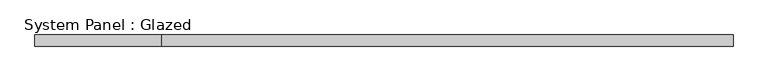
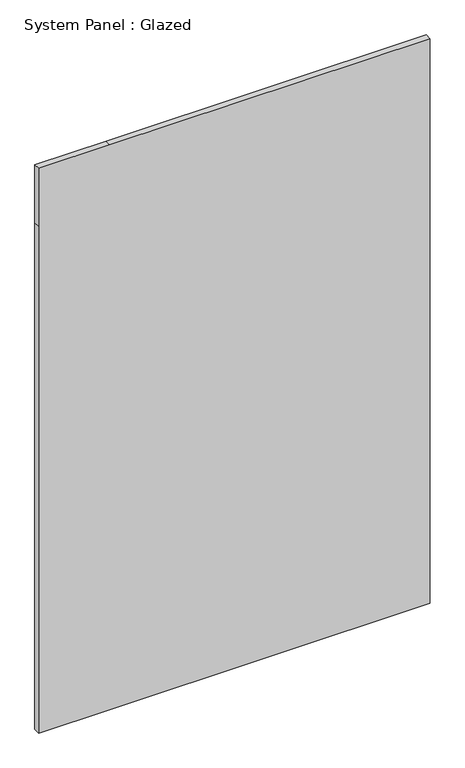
"""IFC4 building model written with IfcOpenShell, lengths in millimetres: plate geometry, System Panel : Glazed."""

import ifcopenshell
import ifcopenshell.guid

model = None  # the IFC model being written
_history = None  # IfcOwnerHistory: only IFC2X3 demands one
_inside = {}  # id of a spatial element -> (the spatial element, [elements in it])
_under = {}  # id of a project, library or spatial element -> (it, [spatial elements below it])
_declared = {}  # id of a project -> (the project, [libraries it declares])
_typed = {}  # id of a type object -> (the type object, [elements of that type])
_made_of = {}  # id of a material, layer set ... -> (it, [elements and type objects made of it])


def new_model(schema):
    """Start an empty IFC model of exactly this schema.

    Asked for "IFC4X3", IfcOpenShell would pick the latest addendum, in which some entities
    have other attributes; the version numbers below select the first issue.
    IFC2X3 requires an IfcOwnerHistory on every rooted entity: one is made here for all.
    """
    global model, _history
    if schema == "IFC4X3":
        model = ifcopenshell.file(schema_version=(4, 3, 0, 0))
    else:
        model = ifcopenshell.file(schema=schema)
    _inside.clear()
    _under.clear()
    _declared.clear()
    _typed.clear()
    _made_of.clear()
    _history = None
    if model.schema == "IFC2X3":
        org = make("IfcOrganization", Name="unknown")
        user = make(
            "IfcPersonAndOrganization",
            ThePerson=make("IfcPerson", FamilyName="unknown"),
            TheOrganization=org,
        )
        app = make(
            "IfcApplication",
            ApplicationDeveloper=org,
            Version="unknown",
            ApplicationFullName="unknown",
            ApplicationIdentifier="unknown",
        )
        _history = make(
            "IfcOwnerHistory",
            OwningUser=user,
            OwningApplication=app,
            ChangeAction="ADDED",
            CreationDate=0,
        )
    return model


def make(cls, **values):
    """One entity of the class cls with the attributes given. An attribute that is None is left unset."""
    return model.create_entity(
        cls, **{name: value for name, value in values.items() if value is not None}
    )


def rooted(cls, **values):
    """An entity with a GlobalId (a new one), such as an element, a storey or a relation."""
    return make(cls, GlobalId=ifcopenshell.guid.new(), OwnerHistory=_history, **values)


def si_unit(unit_type, name, prefix=None):
    """IfcSIUnit, for example si_unit("LENGTHUNIT", "METRE", prefix="MILLI")."""
    return make("IfcSIUnit", UnitType=unit_type, Prefix=prefix, Name=name)


def assignment(units):
    """IfcUnitAssignment: the units of a project."""
    return None if units is None else make("IfcUnitAssignment", Units=units)


def point(xyz):
    """IfcCartesianPoint."""
    return None if xyz is None else make("IfcCartesianPoint", Coordinates=xyz)


def direction(xyz):
    """IfcDirection."""
    return None if xyz is None else make("IfcDirection", DirectionRatios=xyz)


def frame(location, z_axis=None, x_axis=None):
    """IfcAxis2Placement3D, a coordinate frame: its origin and axes. An axis left out is left unset."""
    return make(
        "IfcAxis2Placement3D",
        Location=point(location),
        Axis=direction(z_axis),
        RefDirection=direction(x_axis),
    )


def origin():
    """The frame at (0, 0, 0) with its axes left unset."""
    return frame((0.0, 0.0, 0.0))


def place(relative_to, where):
    """IfcLocalPlacement: puts the frame where relative to a parent placement (None: the world)."""
    return make(
        "IfcLocalPlacement", PlacementRelTo=relative_to, RelativePlacement=where
    )


def context(
    kind, dimensions, precision=None, world=None, true_north=None, identifier=None
):
    """IfcGeometricRepresentationContext, for example the 3D "Model" context."""
    return make(
        "IfcGeometricRepresentationContext",
        ContextIdentifier=identifier,
        ContextType=kind,
        CoordinateSpaceDimension=dimensions,
        Precision=precision,
        WorldCoordinateSystem=world,
        TrueNorth=true_north,
    )


def project(units=None, contexts=None):
    """IfcProject with its units and contexts."""
    return rooted(
        "IfcProject",
        Name="project",
        RepresentationContexts=contexts,
        UnitsInContext=assignment(units),
    )


def spatial(cls, under=None, at=None, **own):
    """A site, building, storey or space (cls), placed at a placement, below another one or the project."""
    s = rooted(cls, ObjectPlacement=at, **own)
    if under is not None:
        _under.setdefault(under.id(), (under, []))[1].append(s)
    return s


def polyline(points):
    """IfcPolyline through the points."""
    return make("IfcPolyline", Points=[point(p) for p in points])


def outline(outer, holes=None, kind="AREA"):
    """IfcArbitraryClosedProfileDef: a profile drawn as a closed curve; with holes, ...WithVoids."""
    if holes is None:
        return make("IfcArbitraryClosedProfileDef", ProfileType=kind, OuterCurve=outer)
    return make(
        "IfcArbitraryProfileDefWithVoids",
        ProfileType=kind,
        OuterCurve=outer,
        InnerCurves=holes,
    )


def extrude(swept, where, along, depth):
    """IfcExtrudedAreaSolid: the profile swept, set in the frame where, extruded along a direction by depth."""
    return make(
        "IfcExtrudedAreaSolid",
        SweptArea=swept,
        Position=where,
        ExtrudedDirection=direction(along),
        Depth=depth,
    )


def shape(context_of_items, identifier, shape_type, items):
    """IfcShapeRepresentation: the items that make up one representation, for example the "Body"."""
    return make(
        "IfcShapeRepresentation",
        ContextOfItems=context_of_items,
        RepresentationIdentifier=identifier,
        RepresentationType=shape_type,
        Items=items,
    )


def source(mapping_origin, context_of_items, identifier, shape_type, items):
    """IfcRepresentationMap: a shape defined once, which mapped items show again and again."""
    return make(
        "IfcRepresentationMap",
        MappingOrigin=mapping_origin,
        MappedRepresentation=shape(context_of_items, identifier, shape_type, items),
    )


def transform(
    local_origin,
    x_axis=None,
    y_axis=None,
    z_axis=None,
    scale=None,
    scale2=None,
    scale3=None,
    uniform=True,
):
    """IfcCartesianTransformationOperator3D, or its non-uniform kind. x_axis, y_axis, z_axis: its Axis1, 2, 3."""
    if uniform:
        return make(
            "IfcCartesianTransformationOperator3D",
            Axis1=direction(x_axis),
            Axis2=direction(y_axis),
            LocalOrigin=point(local_origin),
            Scale=scale,
            Axis3=direction(z_axis),
        )
    return make(
        "IfcCartesianTransformationOperator3DnonUniform",
        Axis1=direction(x_axis),
        Axis2=direction(y_axis),
        LocalOrigin=point(local_origin),
        Scale=scale,
        Axis3=direction(z_axis),
        Scale2=scale2,
        Scale3=scale3,
    )


def mapped(mapping_source, mapping_target):
    """IfcMappedItem: shows the shape of a source again, moved by a transform."""
    return make(
        "IfcMappedItem", MappingSource=mapping_source, MappingTarget=mapping_target
    )


def made_of(thing, what):
    """Note that an element or type object is made of a material, layer set ...; save() writes the relation."""
    if what is not None:
        _made_of.setdefault(what.id(), (what, []))[1].append(thing)
    return thing


def element(
    cls,
    number,
    at=None,
    inside=None,
    cuts=None,
    type_object=None,
    material=None,
    context=None,
    identifier="Body",
    shape_type=None,
    held_by="IfcProductDefinitionShape",
    body=None,
    shapes=None,
    **own,
):
    """One element of the class cls, such as IfcWall. Its Tag is "e" and its number.

    at: its placement. inside: the storey or other place that contains it. cuts: it is an
    opening in that element (IfcRelVoidsElement). A single representation is given by context,
    identifier, shape_type and body (its items); several are given by shapes. held_by: the class
    of the entity that holds the representations. save() writes the other relations.
    """
    e = rooted(cls, Tag="e%d" % number, ObjectPlacement=at, **own)
    if body is not None:
        shapes = [shape(context, identifier, shape_type, body)]
    if shapes is not None:
        e.Representation = make(held_by, Representations=shapes)
    if inside is not None:
        _inside.setdefault(inside.id(), (inside, []))[1].append(e)
    if cuts is not None:
        rooted(
            "IfcRelVoidsElement", RelatingBuildingElement=cuts, RelatedOpeningElement=e
        )
    if type_object is not None:
        _typed.setdefault(type_object.id(), (type_object, []))[1].append(e)
    return made_of(e, material)


def aggregate(whole, parts):
    """IfcRelAggregates: a whole, such as a stair, and the parts it consists of."""
    return rooted("IfcRelAggregates", RelatingObject=whole, RelatedObjects=parts)


def save(model, path):
    """Write the relations noted so far, then the file.

    IfcRelAggregates (storeys below a building ...), IfcRelContainedInSpatialStructure (elements
    in a storey), IfcRelDefinesByType, IfcRelAssociatesMaterial and IfcRelDeclares: one each for
    every whole, place, type object, material and project.
    """
    for whole, parts in _under.values():
        aggregate(whole, parts)
    for where, things in _inside.values():
        rooted(
            "IfcRelContainedInSpatialStructure",
            RelatedElements=things,
            RelatingStructure=where,
        )
    for kind, things in _typed.values():
        rooted("IfcRelDefinesByType", RelatedObjects=things, RelatingType=kind)
    for what, things in _made_of.values():
        rooted("IfcRelAssociatesMaterial", RelatedObjects=things, RelatingMaterial=what)
    for by, libraries in _declared.values():
        rooted("IfcRelDeclares", RelatingContext=by, RelatedDefinitions=libraries)
    model.write(path)


def system_panel_glazed_bb2f95a6(model_context):
    return source(origin(), model_context, "Body", "SweptSolid", [
        extrude(outline(polyline([(0.0, -768.35), (0.0, -488.95), (0.0, 768.35), (2101.85, 768.35), (2343.15, 768.35), (2343.15, -488.95), (2343.15, -768.35), (2101.85, -768.35), (0.0, -768.35)])), frame((0.0, -44.45, 0.0), z_axis=(0.0, 1.0, 0.0), x_axis=(0.0, 0.0, 1.0)), (0.0, 0.0, 1.0), 25.4),
    ])


if __name__ == "__main__":
    model = new_model("IFC4")
    model_context = context("Model", 3, world=origin())
    ifc_project = project(units=[si_unit("LENGTHUNIT", "METRE", prefix="MILLI")], contexts=[model_context])
    site = spatial("IfcSite", under=ifc_project)
    building = spatial("IfcBuilding", under=site)
    placement = place(None, origin())
    system_panel_glazed_shape = system_panel_glazed_bb2f95a6(model_context)
    element("IfcPlate", 1, ObjectType="System Panel : Glazed", at=placement, inside=building, context=model_context, shape_type="MappedRepresentation", body=[
        mapped(system_panel_glazed_shape, transform((0.0, 0.0, 0.0), x_axis=(1.0, 0.0, 0.0), y_axis=(0.0, 1.0, 0.0), z_axis=(0.0, 0.0, 1.0))),
    ])
    save(model, "model.ifc")
